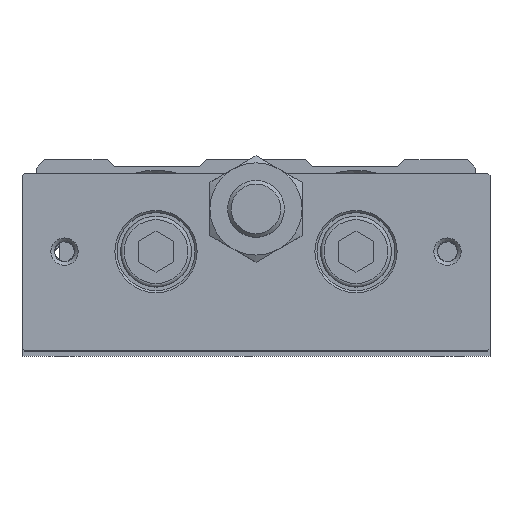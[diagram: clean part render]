
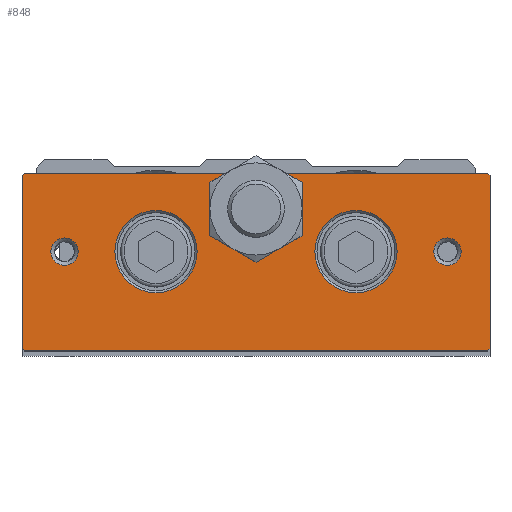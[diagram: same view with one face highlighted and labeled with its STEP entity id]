
A CAD part, top view. The second image highlights one B-rep face of the part: STEP entity #848.
In plain terms, the highlighted planar face has unit normal (0, 0, 1).
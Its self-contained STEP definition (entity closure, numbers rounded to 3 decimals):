
#629=CARTESIAN_POINT('',(-32.7,-14.5,245.0));
#630=VERTEX_POINT('',#629);
#637=CARTESIAN_POINT('',(-33.0,-14.2,245.0));
#638=VERTEX_POINT('',#637);
#639=CARTESIAN_POINT('',(-32.7,-14.5,245.0));
#640=DIRECTION('',(-0.707,0.707,0.0));
#641=VECTOR('',#640,0.424);
#642=LINE('',#639,#641);
#643=EDGE_CURVE('',#630,#638,#642,.T.);
#660=CARTESIAN_POINT('',(-33.0,10.2,245.0));
#661=VERTEX_POINT('',#660);
#662=CARTESIAN_POINT('',(-33.0,10.2,245.0));
#663=DIRECTION('',(0.0,-1.0,0.0));
#664=VECTOR('',#663,24.4);
#665=LINE('',#662,#664);
#666=EDGE_CURVE('',#661,#638,#665,.T.);
#696=CARTESIAN_POINT('',(0.0,-14.5,245.0));
#697=DIRECTION('',(0.0,0.0,1.0));
#698=DIRECTION('',(1.0,0.0,0.0));
#699=AXIS2_PLACEMENT_3D('',#696,#697,#698);
#700=PLANE('',#699);
#701=ORIENTED_EDGE('',*,*,#643,.F.);
#702=CARTESIAN_POINT('',(32.7,-14.5,245.0));
#703=VERTEX_POINT('',#702);
#704=CARTESIAN_POINT('',(-32.7,-14.5,245.0));
#705=DIRECTION('',(1.0,0.0,0.0));
#706=VECTOR('',#705,65.4);
#707=LINE('',#704,#706);
#708=EDGE_CURVE('',#630,#703,#707,.T.);
#709=ORIENTED_EDGE('',*,*,#708,.T.);
#710=CARTESIAN_POINT('',(33.0,-14.2,245.0));
#711=VERTEX_POINT('',#710);
#712=CARTESIAN_POINT('',(33.0,-14.2,245.0));
#713=DIRECTION('',(-0.707,-0.707,0.0));
#714=VECTOR('',#713,0.424);
#715=LINE('',#712,#714);
#716=EDGE_CURVE('',#711,#703,#715,.T.);
#717=ORIENTED_EDGE('',*,*,#716,.F.);
#718=CARTESIAN_POINT('',(33.0,10.2,245.0));
#719=VERTEX_POINT('',#718);
#720=CARTESIAN_POINT('',(33.0,-14.2,245.0));
#721=DIRECTION('',(0.0,1.0,0.0));
#722=VECTOR('',#721,24.4);
#723=LINE('',#720,#722);
#724=EDGE_CURVE('',#711,#719,#723,.T.);
#725=ORIENTED_EDGE('',*,*,#724,.T.);
#726=CARTESIAN_POINT('',(32.7,10.5,245.0));
#727=VERTEX_POINT('',#726);
#728=CARTESIAN_POINT('',(32.7,10.5,245.0));
#729=DIRECTION('',(0.707,-0.707,0.0));
#730=VECTOR('',#729,0.424);
#731=LINE('',#728,#730);
#732=EDGE_CURVE('',#727,#719,#731,.T.);
#733=ORIENTED_EDGE('',*,*,#732,.F.);
#734=CARTESIAN_POINT('',(4.153,10.5,245.0));
#735=VERTEX_POINT('',#734);
#736=CARTESIAN_POINT('',(32.7,10.5,245.0));
#737=DIRECTION('',(-1.0,0.0,0.0));
#738=VECTOR('',#737,28.547);
#739=LINE('',#736,#738);
#740=EDGE_CURVE('',#727,#735,#739,.T.);
#741=ORIENTED_EDGE('',*,*,#740,.T.);
#742=CARTESIAN_POINT('',(6.5,5.5,245.0));
#743=VERTEX_POINT('',#742);
#744=CARTESIAN_POINT('',(0.0,5.5,245.0));
#745=DIRECTION('',(0.0,0.0,1.0));
#746=DIRECTION('',(0.0,1.0,0.0));
#747=AXIS2_PLACEMENT_3D('',#744,#745,#746);
#748=CIRCLE('',#747,6.5);
#749=EDGE_CURVE('',#743,#735,#748,.T.);
#750=ORIENTED_EDGE('',*,*,#749,.F.);
#751=CARTESIAN_POINT('',(3.25,-0.129,245.0));
#752=VERTEX_POINT('',#751);
#753=CARTESIAN_POINT('',(0.0,5.5,245.0));
#754=DIRECTION('',(0.0,0.0,1.0));
#755=DIRECTION('',(0.0,1.0,0.0));
#756=AXIS2_PLACEMENT_3D('',#753,#754,#755);
#757=CIRCLE('',#756,6.5);
#758=EDGE_CURVE('',#752,#743,#757,.T.);
#759=ORIENTED_EDGE('',*,*,#758,.F.);
#760=CARTESIAN_POINT('',(-3.25,-0.129,245.0));
#761=VERTEX_POINT('',#760);
#762=CARTESIAN_POINT('',(0.0,5.5,245.0));
#763=DIRECTION('',(0.0,0.0,1.0));
#764=DIRECTION('',(0.0,1.0,0.0));
#765=AXIS2_PLACEMENT_3D('',#762,#763,#764);
#766=CIRCLE('',#765,6.5);
#767=EDGE_CURVE('',#761,#752,#766,.T.);
#768=ORIENTED_EDGE('',*,*,#767,.F.);
#769=CARTESIAN_POINT('',(-6.5,5.5,245.0));
#770=VERTEX_POINT('',#769);
#771=CARTESIAN_POINT('',(0.0,5.5,245.0));
#772=DIRECTION('',(0.0,0.0,1.0));
#773=DIRECTION('',(0.0,1.0,0.0));
#774=AXIS2_PLACEMENT_3D('',#771,#772,#773);
#775=CIRCLE('',#774,6.5);
#776=EDGE_CURVE('',#770,#761,#775,.T.);
#777=ORIENTED_EDGE('',*,*,#776,.F.);
#778=CARTESIAN_POINT('',(-4.153,10.5,245.0));
#779=VERTEX_POINT('',#778);
#780=CARTESIAN_POINT('',(0.0,5.5,245.0));
#781=DIRECTION('',(0.0,0.0,1.0));
#782=DIRECTION('',(0.0,1.0,0.0));
#783=AXIS2_PLACEMENT_3D('',#780,#781,#782);
#784=CIRCLE('',#783,6.5);
#785=EDGE_CURVE('',#779,#770,#784,.T.);
#786=ORIENTED_EDGE('',*,*,#785,.F.);
#787=CARTESIAN_POINT('',(-32.7,10.5,245.0));
#788=VERTEX_POINT('',#787);
#789=CARTESIAN_POINT('',(-4.153,10.5,245.0));
#790=DIRECTION('',(-1.0,0.0,0.0));
#791=VECTOR('',#790,28.547);
#792=LINE('',#789,#791);
#793=EDGE_CURVE('',#779,#788,#792,.T.);
#794=ORIENTED_EDGE('',*,*,#793,.T.);
#795=CARTESIAN_POINT('',(-33.0,10.2,245.0));
#796=DIRECTION('',(0.707,0.707,0.0));
#797=VECTOR('',#796,0.424);
#798=LINE('',#795,#797);
#799=EDGE_CURVE('',#661,#788,#798,.T.);
#800=ORIENTED_EDGE('',*,*,#799,.F.);
#801=ORIENTED_EDGE('',*,*,#666,.T.);
#802=EDGE_LOOP('',(#701,#709,#717,#725,#733,#741,#750,#759,#768,#777,#786,#794,#800,#801));
#803=FACE_OUTER_BOUND('',#802,.T.);
#804=CARTESIAN_POINT('',(19.9,-0.5,245.0));
#805=VERTEX_POINT('',#804);
#806=CARTESIAN_POINT('',(14.1,-0.5,245.0));
#807=DIRECTION('',(0.0,0.0,1.0));
#808=DIRECTION('',(-1.0,0.0,0.0));
#809=AXIS2_PLACEMENT_3D('',#806,#807,#808);
#810=CIRCLE('',#809,5.8);
#811=EDGE_CURVE('',#805,#805,#810,.T.);
#812=ORIENTED_EDGE('',*,*,#811,.F.);
#813=EDGE_LOOP('',(#812));
#814=FACE_BOUND('',#813,.T.);
#815=CARTESIAN_POINT('',(28.925,-0.5,245.0));
#816=VERTEX_POINT('',#815);
#817=CARTESIAN_POINT('',(27.,-0.5,245.0));
#818=DIRECTION('',(0.0,0.0,1.0));
#819=DIRECTION('',(-1.0,0.0,0.0));
#820=AXIS2_PLACEMENT_3D('',#817,#818,#819);
#821=CIRCLE('',#820,1.925);
#822=EDGE_CURVE('',#816,#816,#821,.T.);
#823=ORIENTED_EDGE('',*,*,#822,.F.);
#824=EDGE_LOOP('',(#823));
#825=FACE_BOUND('',#824,.T.);
#826=CARTESIAN_POINT('',(-25.075,-0.5,245.0));
#827=VERTEX_POINT('',#826);
#828=CARTESIAN_POINT('',(-27.0,-0.5,245.0));
#829=DIRECTION('',(0.0,0.0,1.0));
#830=DIRECTION('',(-1.0,0.0,0.0));
#831=AXIS2_PLACEMENT_3D('',#828,#829,#830);
#832=CIRCLE('',#831,1.925);
#833=EDGE_CURVE('',#827,#827,#832,.T.);
#834=ORIENTED_EDGE('',*,*,#833,.F.);
#835=EDGE_LOOP('',(#834));
#836=FACE_BOUND('',#835,.T.);
#837=CARTESIAN_POINT('',(-8.3,-0.5,245.0));
#838=VERTEX_POINT('',#837);
#839=CARTESIAN_POINT('',(-14.1,-0.5,245.0));
#840=DIRECTION('',(0.0,0.0,1.0));
#841=DIRECTION('',(-1.0,0.0,0.0));
#842=AXIS2_PLACEMENT_3D('',#839,#840,#841);
#843=CIRCLE('',#842,5.8);
#844=EDGE_CURVE('',#838,#838,#843,.T.);
#845=ORIENTED_EDGE('',*,*,#844,.F.);
#846=EDGE_LOOP('',(#845));
#847=FACE_BOUND('',#846,.T.);
#848=ADVANCED_FACE('',(#803,#814,#825,#836,#847),#700,.T.);
